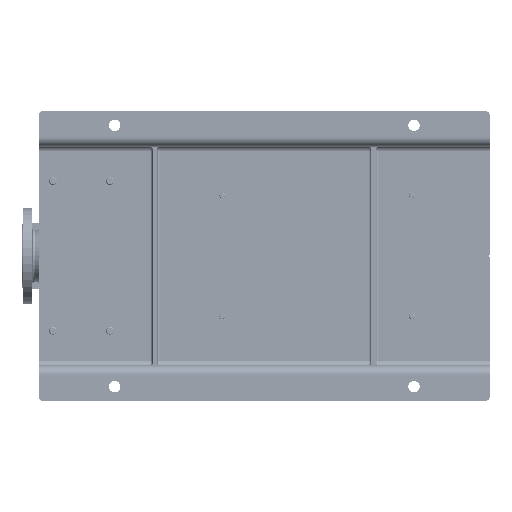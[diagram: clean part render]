
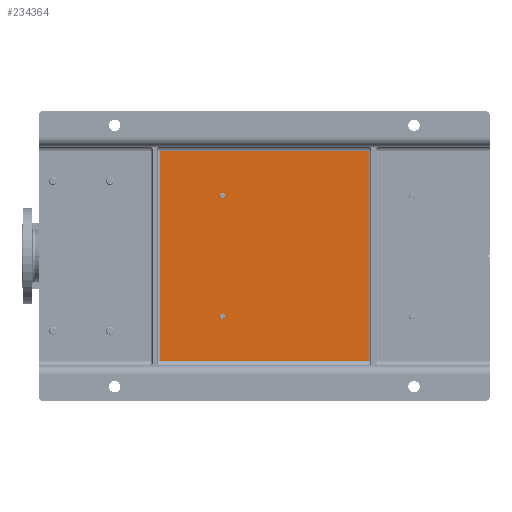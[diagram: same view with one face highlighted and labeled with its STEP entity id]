
A CAD part, front view. The second image highlights one B-rep face of the part: STEP entity #234364.
In plain terms, the highlighted planar face has unit normal (0, -1, 0).
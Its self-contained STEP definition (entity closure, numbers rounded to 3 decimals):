
#4570 = DIRECTION ( 'NONE',  ( 0., 0., -1. ) ) ;
#10147 = CARTESIAN_POINT ( 'NONE',  ( 525., 65., -255. ) ) ;
#10381 = CARTESIAN_POINT ( 'NONE',  ( 432., 65., -380.5 ) ) ;
#12406 = EDGE_CURVE ( 'NONE', #198867, #63313, #28635, .T. ) ;
#14943 = CARTESIAN_POINT ( 'NONE',  ( 75., 65., -695. ) ) ;
#15582 = ORIENTED_EDGE ( 'NONE', *, *, #89123, .T. ) ;
#25632 = VECTOR ( 'NONE', #53690, 1000. ) ;
#25958 = FACE_BOUND ( 'NONE', #153361, .T. ) ;
#26452 = EDGE_CURVE ( 'NONE', #126730, #101606, #69036, .T. ) ;
#27017 = LINE ( 'NONE', #219707, #102311 ) ;
#28635 = LINE ( 'NONE', #89062, #128699 ) ;
#40038 = CARTESIAN_POINT ( 'NONE',  ( 432., 65., -386.5 ) ) ;
#51224 = DIRECTION ( 'NONE',  ( 0., 0., -1. ) ) ;
#53690 = DIRECTION ( 'NONE',  ( -1., 0., 0. ) ) ;
#55247 = LINE ( 'NONE', #14943, #107947 ) ;
#56441 = DIRECTION ( 'NONE',  ( 0., 0., 1. ) ) ;
#56519 = CARTESIAN_POINT ( 'NONE',  ( 432., 65., -392.5 ) ) ;
#57720 = DIRECTION ( 'NONE',  ( 1., 0., 0. ) ) ;
#61514 = EDGE_LOOP ( 'NONE', ( #84016, #167197 ) ) ;
#61838 = VERTEX_POINT ( 'NONE', #56519 ) ;
#62520 = FACE_OUTER_BOUND ( 'NONE', #72215, .T. ) ;
#63313 = VERTEX_POINT ( 'NONE', #185743 ) ;
#63628 = CARTESIAN_POINT ( 'NONE',  ( 85., 65., -255. ) ) ;
#65011 = PLANE ( 'NONE',  #149276 ) ;
#69036 = CIRCLE ( 'NONE', #153364, 6. ) ;
#72215 = EDGE_LOOP ( 'NONE', ( #128555, #15582, #244681, #156459 ) ) ;
#73802 = CARTESIAN_POINT ( 'NONE',  ( 75., 65., -255. ) ) ;
#77825 = DIRECTION ( 'NONE',  ( 0., 0., 1. ) ) ;
#82453 = DIRECTION ( 'NONE',  ( 0., 0., 1. ) ) ;
#84016 = ORIENTED_EDGE ( 'NONE', *, *, #236592, .T. ) ;
#84072 = CARTESIAN_POINT ( 'NONE',  ( 178., 65., -386.5 ) ) ;
#89062 = CARTESIAN_POINT ( 'NONE',  ( 85., 65., -700. ) ) ;
#89123 = EDGE_CURVE ( 'NONE', #63313, #147895, #55247, .T. ) ;
#90519 = DIRECTION ( 'NONE',  ( 0., 1., 0. ) ) ;
#96267 = ORIENTED_EDGE ( 'NONE', *, *, #26452, .T. ) ;
#96729 = DIRECTION ( 'NONE',  ( 0., 1., 0. ) ) ;
#96825 = CIRCLE ( 'NONE', #100782, 6. ) ;
#100782 = AXIS2_PLACEMENT_3D ( 'NONE', #186223, #90519, #56441 ) ;
#101606 = VERTEX_POINT ( 'NONE', #171546 ) ;
#102311 = VECTOR ( 'NONE', #82453, 1000. ) ;
#107348 = EDGE_CURVE ( 'NONE', #61838, #200575, #96825, .T. ) ;
#107947 = VECTOR ( 'NONE', #57720, 1000. ) ;
#107950 = DIRECTION ( 'NONE',  ( 0., 0., -1. ) ) ;
#124407 = DIRECTION ( 'NONE',  ( 0., 1., 0. ) ) ;
#126730 = VERTEX_POINT ( 'NONE', #198386 ) ;
#128555 = ORIENTED_EDGE ( 'NONE', *, *, #12406, .T. ) ;
#128699 = VECTOR ( 'NONE', #107950, 1000. ) ;
#135551 = EDGE_CURVE ( 'NONE', #233632, #198867, #192132, .T. ) ;
#143188 = EDGE_CURVE ( 'NONE', #101606, #126730, #244170, .T. ) ;
#146959 = DIRECTION ( 'NONE',  ( 0., 0., -1. ) ) ;
#147895 = VERTEX_POINT ( 'NONE', #216633 ) ;
#149276 = AXIS2_PLACEMENT_3D ( 'NONE', #175880, #194774, #4570 ) ;
#151296 = ORIENTED_EDGE ( 'NONE', *, *, #143188, .T. ) ;
#153361 = EDGE_LOOP ( 'NONE', ( #96267, #151296 ) ) ;
#153364 = AXIS2_PLACEMENT_3D ( 'NONE', #188421, #169522, #51224 ) ;
#156459 = ORIENTED_EDGE ( 'NONE', *, *, #135551, .T. ) ;
#162013 = CIRCLE ( 'NONE', #198314, 6. ) ;
#167197 = ORIENTED_EDGE ( 'NONE', *, *, #107348, .T. ) ;
#169522 = DIRECTION ( 'NONE',  ( 0., 1., 0. ) ) ;
#171546 = CARTESIAN_POINT ( 'NONE',  ( 178., 65., -392.5 ) ) ;
#171756 = AXIS2_PLACEMENT_3D ( 'NONE', #84072, #124407, #146959 ) ;
#175880 = CARTESIAN_POINT ( 'NONE',  ( 75., 65., -950. ) ) ;
#185743 = CARTESIAN_POINT ( 'NONE',  ( 85., 65., -695. ) ) ;
#186223 = CARTESIAN_POINT ( 'NONE',  ( 432., 65., -386.5 ) ) ;
#188421 = CARTESIAN_POINT ( 'NONE',  ( 178., 65., -386.5 ) ) ;
#192132 = LINE ( 'NONE', #73802, #25632 ) ;
#194774 = DIRECTION ( 'NONE',  ( 0., -1., 0. ) ) ;
#198314 = AXIS2_PLACEMENT_3D ( 'NONE', #40038, #96729, #77825 ) ;
#198386 = CARTESIAN_POINT ( 'NONE',  ( 178., 65., -380.5 ) ) ;
#198490 = FACE_BOUND ( 'NONE', #61514, .T. ) ;
#198867 = VERTEX_POINT ( 'NONE', #63628 ) ;
#200575 = VERTEX_POINT ( 'NONE', #10381 ) ;
#216633 = CARTESIAN_POINT ( 'NONE',  ( 525., 65., -695. ) ) ;
#219707 = CARTESIAN_POINT ( 'NONE',  ( 525., 65., -250. ) ) ;
#233632 = VERTEX_POINT ( 'NONE', #10147 ) ;
#234364 = ADVANCED_FACE ( 'NONE', ( #198490, #25958, #62520 ), #65011, .T. ) ;
#236592 = EDGE_CURVE ( 'NONE', #200575, #61838, #162013, .T. ) ;
#241169 = EDGE_CURVE ( 'NONE', #147895, #233632, #27017, .T. ) ;
#244170 = CIRCLE ( 'NONE', #171756, 6. ) ;
#244681 = ORIENTED_EDGE ( 'NONE', *, *, #241169, .T. ) ;
